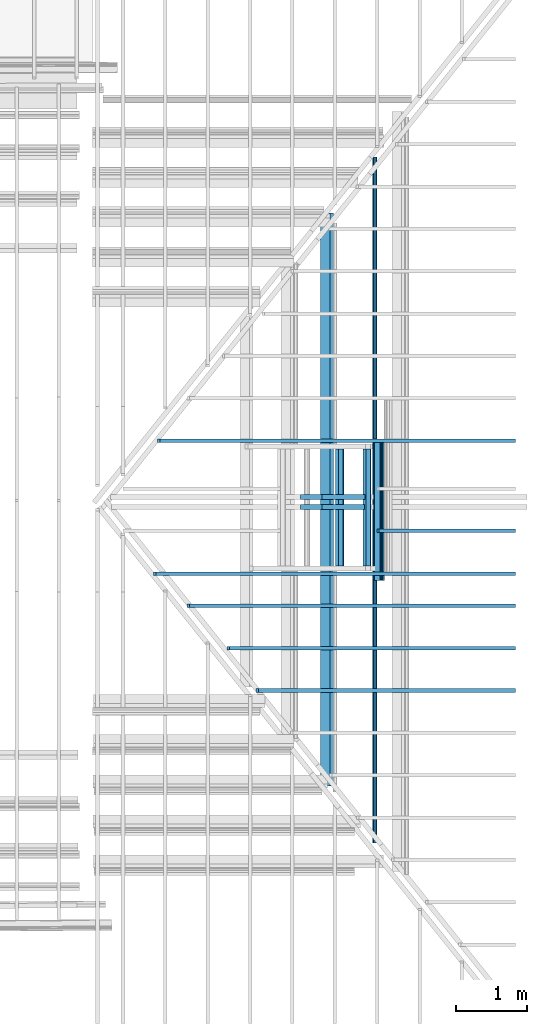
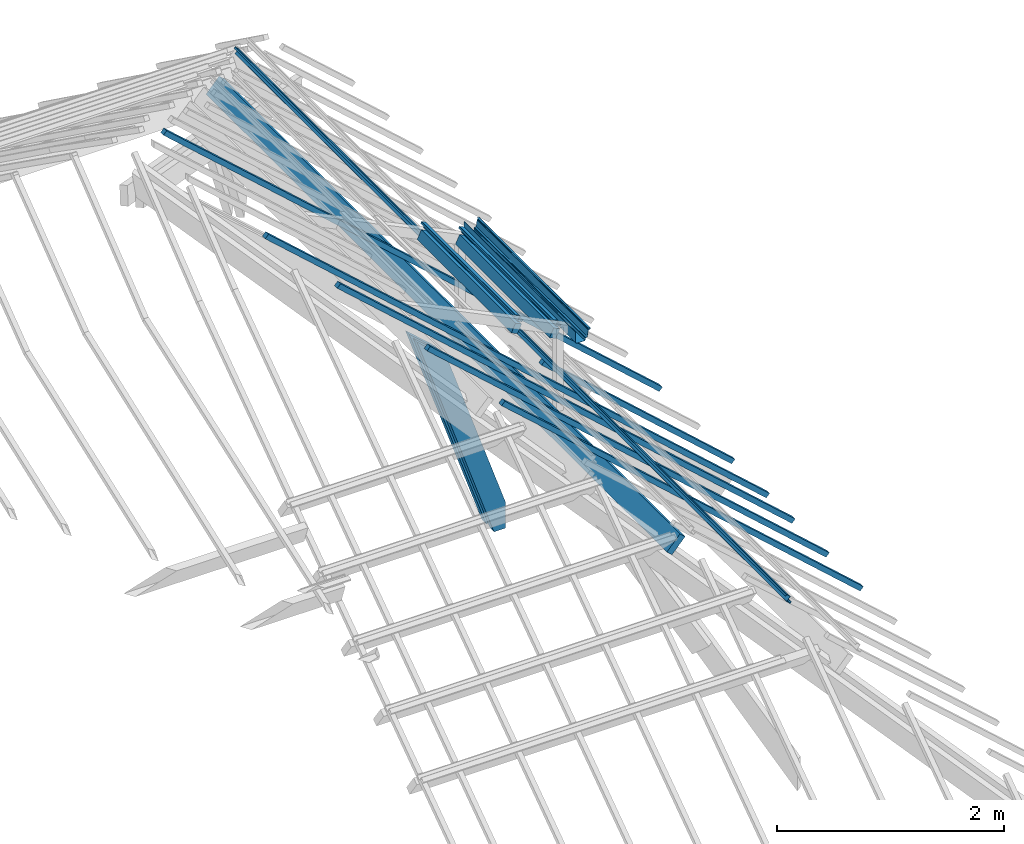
# One storey, part 13 of 18: 15 beams.
"""IFC2X3 building model written with IfcOpenShell, lengths in centimetres."""

from ifc_helpers import new_model, entity, si_unit, converted_unit, direction, frame, frame_2d, origin, origin_2d_with_axis, place, context, subcontext, project, spatial, polyline, circle_curve, parameter, trimmed, segment, composite_curve, rectangle, outline, extrude, clip, halfspace, bounded_halfspace, material, type_object, element, save


model = new_model("IFC2X3")

# Units and contexts
model_context = context("Model", 3, precision=0.001, world=frame((0.0, 0.0, 13090.0)), true_north=direction((6.123233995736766e-17, 1.0)))
body_context = subcontext(model_context, "Body", "Model", "MODEL_VIEW")
ifc_project = project(units=[si_unit("LENGTHUNIT", "METRE", prefix="CENTI"), si_unit("AREAUNIT", "SQUARE_METRE"), si_unit("VOLUMEUNIT", "CUBIC_METRE"), converted_unit("PLANEANGLEUNIT", "DEGREE", entity("IfcPlaneAngleMeasure", 0.017453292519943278), si_unit("PLANEANGLEUNIT", "RADIAN"), dimensions=[0, 0, 0, 0, 0, 0, 0])], contexts=[model_context])

# Site, building, storey
site_placement = place(None, origin())
site = spatial("IfcSite", under=ifc_project, at=site_placement, Name="Default", CompositionType="ELEMENT")
building_placement = place(site_placement, origin())
building = spatial("IfcBuilding", under=site, at=building_placement, Name="e 39 logements et 22 maisons relais", CompositionType="ELEMENT")
storey_placement = place(building_placement, frame((0.0, 0.0, 610.0)))
storey = spatial("IfcBuildingStorey", under=building, at=storey_placement, Name="R+2", CompositionType="ELEMENT", Elevation=609.9999999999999)

# Beams
ifc_material_1 = material(Name="Bois - Bois de construction de dimensions courantes")
beam_type_1 = type_object("IfcBeamType", Name="Poutre - Bois de construction de dimensions courantes:70 200", PredefinedType="BEAM")
beam_1_placement = place(storey_placement, frame((946.1986017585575, 514.0076677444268, -24.206163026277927), z_axis=(0.0, 0.0, 1.0), x_axis=(0.0, -1.0, 0.0)))
element("IfcBeam", 1, at=beam_1_placement, inside=storey, type_object=beam_type_1, material=ifc_material_1, Name="Poutre - Bois de construction de dimensions courantes:70 200", ObjectType="Poutre - Bois de construction de dimensions courantes:70 200", context=body_context, shape_type="SweptSolid", body=[
    extrude(rectangle(XDim=19.99999999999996, YDim=7.00000000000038, at=frame_2d((3.774758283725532e-15, 7.72715225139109e-14), x_axis=(0.0, 1.0))), frame((127.41129123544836, -6.691306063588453, -7.431448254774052), z_axis=(1.0, 0.0, 0.0), x_axis=(0.0, -0.7431448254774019, 0.6691306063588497)), (0.0, 0.0, 1.0), 811.3982205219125),
])
beam_2_placement = place(storey_placement, frame((1043.6068421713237, -15.897903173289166, -138.08965595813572), z_axis=(0.9473208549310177, 0.0, 0.32028611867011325), x_axis=(-0.32028611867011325, 0.0, 0.9473208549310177)))
element("IfcBeam", 2, at=beam_2_placement, inside=storey, type_object=beam_type_1, material=ifc_material_1, Name="Poutre - Bois de construction de dimensions courantes:70 200", ObjectType="Poutre - Bois de construction de dimensions courantes:70 200", context=body_context, shape_type="Clipping", body=[
    clip(clip(clip(extrude(rectangle(XDim=20.000000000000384, YDim=7.0000000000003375, at=frame_2d((0.0, 0.0), x_axis=(0.0, 1.0))), frame((-108.56270954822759, 0.0, -92.0), z_axis=(1.0, 0.0, 0.0), x_axis=(0.0, 1.0, 0.0)), (0.0, 0.0, 1.0), 248.0231512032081), halfspace(frame((98.77529436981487, -484.5295381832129, -79.03835809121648), z_axis=(0.4915005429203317, 0.0, 0.8708772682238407), x_axis=(0.0, 1.0, 0.0)), False)), bounded_halfspace(frame((-99.24238349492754, -484.5295381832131, -118.31909737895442), z_axis=(-0.947320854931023, 0.0, -0.3202861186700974), x_axis=(0.0, 1.0, 0.0)), False, frame((-108.56270954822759, 0.0, -92.0), z_axis=(1.0, 0.0, 0.0), x_axis=(0.0, 1.0, 0.0)), polyline([(-3.5000000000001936, 1.247939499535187), (3.5000000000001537, 1.24793949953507), (3.500000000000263, -10.0), (-3.5000000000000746, -10.0), (-3.5000000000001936, 1.247939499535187)]))), bounded_halfspace(frame((-108.56270954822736, -484.529538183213, -90.75206050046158), z_axis=(-0.36252345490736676, 0.0, 0.9319746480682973), x_axis=(0.0, 1.0, 0.0)), False, frame((-108.56270954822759, 0.0, -92.0), z_axis=(1.0, 0.0, 0.0), x_axis=(0.0, 1.0, 0.0)), polyline([(3.500000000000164, 1.2479394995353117), (-3.5000000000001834, 1.2479394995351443), (-3.5000000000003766, 10.0), (3.4999999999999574, 10.0), (3.500000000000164, 1.2479394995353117)]))),
])
beam_3_placement = place(storey_placement, frame((1043.0694290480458, -29.897903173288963, -136.50013137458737), z_axis=(0.9473208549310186, 0.0, 0.3202861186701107), x_axis=(-0.3202861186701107, 0.0, 0.9473208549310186)))
element("IfcBeam", 3, at=beam_3_placement, inside=storey, type_object=beam_type_1, material=ifc_material_1, Name="Poutre - Bois de construction de dimensions courantes:70 200", ObjectType="Poutre - Bois de construction de dimensions courantes:70 200", context=body_context, shape_type="Clipping", body=[
    clip(clip(clip(extrude(rectangle(XDim=19.999999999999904, YDim=7.000000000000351, at=frame_2d((0.0, 1.199040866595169e-13), x_axis=(0.0, 1.0))), frame((-110.24062529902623, 0.0, -92.0), z_axis=(1.0, 0.0, 0.0), x_axis=(0.0, 1.0, 0.0)), (0.0, 0.0, 1.0), 248.02315120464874), halfspace(frame((98.16536146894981, -484.52953818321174, -79.64109991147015), z_axis=(0.4915005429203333, 0.0, 0.8708772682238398), x_axis=(0.0, 1.0, 0.0)), False)), bounded_halfspace(frame((-100.85624202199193, -484.5295381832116, -118.50856154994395), z_axis=(-0.9473208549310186, 0.0, -0.3202861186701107), x_axis=(0.0, 1.0, 0.0)), False, frame((-110.24062529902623, 0.0, -92.0), z_axis=(1.0, 0.0, 0.0), x_axis=(0.0, 1.0, 0.0)), polyline([(-3.5000000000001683, 1.247939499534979), (3.500000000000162, 1.2479394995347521), (3.500000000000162, -10.0), (-3.500000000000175, -10.0), (-3.5000000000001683, 1.247939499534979)]))), bounded_halfspace(frame((-110.24062529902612, -484.5295381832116, -90.75206050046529), z_axis=(-0.3202861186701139, 0.0, 0.9473208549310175), x_axis=(0.0, 1.0, 0.0)), False, frame((-110.24062529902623, 0.0, -92.0), z_axis=(1.0, 0.0, 0.0), x_axis=(0.0, 1.0, 0.0)), polyline([(3.500000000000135, 1.2479394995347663), (-3.500000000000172, 1.2479394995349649), (-3.5000000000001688, 10.0), (3.5000000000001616, 10.0), (3.500000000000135, 1.2479394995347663)]))),
])
ifc_material_2 = material(Name="neuf")
beam_type_2 = type_object("IfcBeamType", Name="gouttiere ALU G400:gouttiere ALU G400", PredefinedType="BEAM")
beam_4_placement = place(storey_placement, frame((1005.6214779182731, -1147.1979031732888, 27.893667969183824), z_axis=(0.0, 0.0, 1.0), x_axis=(0.0, -1.0, 0.0)))
element("IfcBeam", 4, at=beam_4_placement, inside=storey, type_object=beam_type_2, material=ifc_material_2, Name="gouttiere ALU G400:gouttiere ALU G400", ObjectType="gouttiere ALU G400:gouttiere ALU G400", context=body_context, shape_type="SweptSolid", body=[
    extrude(outline(composite_curve([segment(polyline([(-6.028675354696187, -10.418144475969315), (4.91512518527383, -10.418144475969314)]), True, "CONTINUOUS"), segment(trimmed(circle_curve(frame_2d((4.482502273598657, -7.967211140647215), x_axis=(0.1738263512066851, -0.9847763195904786)), 2.4888223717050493), [parameter(0.0)], [parameter(79.98963375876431)], True, "PARAMETER"), True, "CONTINUOUS"), segment(polyline([(6.971324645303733, -7.967211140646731), (6.971324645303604, -1.467211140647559)]), True, "CONTINUOUS"), segment(trimmed(circle_curve(frame_2d((5.604531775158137, -1.4672111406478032), x_axis=(1.0, 0.0)), 1.3667928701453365), [parameter(0.0)], [parameter(80.76228289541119)], True, "PARAMETER"), True, "CONTINUOUS"), segment(polyline([(5.823944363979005, -0.11814447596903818), (4.738394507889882, -0.11814447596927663)]), True, "CONTINUOUS"), segment(trimmed(circle_curve(frame_2d((4.738394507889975, 0.5488704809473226), x_axis=(0.0, -1.0)), 0.6670149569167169), [parameter(270.0000000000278)], [parameter(0.0)], True, "PARAMETER"), False, "CONTINUOUS"), segment(trimmed(circle_curve(frame_2d((2.651166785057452, 0.5488704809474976), x_axis=(1.0, 0.0)), 1.4202127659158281), [parameter(0.0)], [parameter(75.702743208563)], True, "PARAMETER"), True, "CONTINUOUS"), segment(polyline([(3.001892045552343, 1.925095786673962), (-3.0280800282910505, 2.8687394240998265)]), True, "CONTINUOUS"), segment(trimmed(circle_curve(frame_2d((-2.8287143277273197, 3.6330360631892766), x_axis=(-0.25240289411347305, -0.967622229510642)), 0.7898708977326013), [parameter(284.6197487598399)], [parameter(0.0)], True, "PARAMETER"), False, "CONTINUOUS"), segment(polyline([(-3.618585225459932, 3.633036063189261), (-3.6185852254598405, 4.392159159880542)]), True, "CONTINUOUS"), segment(trimmed(circle_curve(frame_2d((-4.410064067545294, 4.3921591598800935), x_axis=(1.0, 0.0)), 0.7914788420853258), [parameter(0.0)], [parameter(89.99999999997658)], True, "PARAMETER"), True, "CONTINUOUS"), segment(polyline([(-4.410064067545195, 5.183638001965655), (-4.596964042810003, 5.183638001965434)]), True, "CONTINUOUS"), segment(trimmed(circle_curve(frame_2d((-4.596964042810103, 4.455817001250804), x_axis=(0.0, 1.0)), 0.727821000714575), [parameter(0.0)], [parameter(90.00000000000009)], True, "PARAMETER"), True, "CONTINUOUS"), segment(polyline([(-5.32478504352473, 4.455817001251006), (-5.509735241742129, 2.7163227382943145)]), True, "CONTINUOUS"), segment(polyline([(-5.509735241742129, 2.716322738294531), (-5.308633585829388, 2.7163227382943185)]), True, "CONTINUOUS"), segment(polyline([(-5.308633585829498, 2.716322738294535), (-5.126213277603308, 4.451936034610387)]), True, "CONTINUOUS"), segment(trimmed(circle_curve(frame_2d((-4.5962937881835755, 4.451936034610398), x_axis=(-1.0, 0.0)), 0.5299194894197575), [parameter(269.9999999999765)], [parameter(0.0)], True, "PARAMETER"), False, "CONTINUOUS"), segment(polyline([(-4.596293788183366, 4.981855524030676), (-4.409626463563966, 4.981855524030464)]), True, "CONTINUOUS"), segment(trimmed(circle_curve(frame_2d((-4.409626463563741, 4.391273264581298), x_axis=(0.0, 1.0)), 0.5905822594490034), [parameter(269.9999999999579)], [parameter(0.0)], True, "PARAMETER"), False, "CONTINUOUS"), segment(polyline([(-3.8190442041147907, 4.391273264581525), (-3.819044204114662, 3.6331166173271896)]), True, "CONTINUOUS"), segment(trimmed(circle_curve(frame_2d((-2.828956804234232, 3.6331166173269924), x_axis=(-1.0, 0.0)), 0.9900873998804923), [parameter(0.0)], [parameter(75.99999999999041)], True, "PARAMETER"), True, "CONTINUOUS"), segment(polyline([(-3.0684806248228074, 2.6724390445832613), (2.9612947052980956, 1.7290144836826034)]), True, "CONTINUOUS"), segment(trimmed(circle_curve(frame_2d((2.6511667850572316, 0.5488704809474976), x_axis=(0.2541588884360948, 0.9671624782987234)), 1.2202127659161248), [parameter(284.7237510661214)], [parameter(0.0)], True, "PARAMETER"), False, "CONTINUOUS"), segment(trimmed(circle_curve(frame_2d((4.738394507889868, 0.5488704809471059), x_axis=(-1.0, 0.0)), 0.8670149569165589), [parameter(0.0)], [parameter(90.0000000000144)], True, "PARAMETER"), True, "CONTINUOUS"), segment(polyline([(4.738394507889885, -0.318144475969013), (5.807143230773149, -0.31814447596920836)]), True, "CONTINUOUS"), segment(trimmed(circle_curve(frame_2d((5.604531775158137, -1.4672111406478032), x_axis=(0.17364817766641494, 0.9848077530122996)), 1.1667928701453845), [parameter(279.9999999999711)], [parameter(0.0)], True, "PARAMETER"), False, "CONTINUOUS"), segment(polyline([(6.771324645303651, -1.467211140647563), (6.771324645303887, -7.967211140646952)]), True, "CONTINUOUS"), segment(trimmed(circle_curve(frame_2d((4.482502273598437, -7.967211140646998), x_axis=(1.0, 0.0)), 2.2888223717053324), [parameter(280.43973077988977)], [parameter(0.0)], True, "PARAMETER"), False, "CONTINUOUS"), segment(polyline([(4.897239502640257, -10.218144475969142), (-6.02867535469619, -10.218144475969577)]), True, "CONTINUOUS"), segment(polyline([(-6.02867535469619, -10.21814447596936), (-6.02867535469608, -10.418144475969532)]), True, "CONTINUOUS")], self_intersect=False)), frame((-1209.5199859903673, 10.218144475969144, -37.028675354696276), z_axis=(1.0, 0.0, 0.0), x_axis=(0.0, 0.0, -1.0)), (0.0, 0.0, 1.0), 195.81260799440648),
])
beam_type_3 = type_object("IfcBeamType", Name="Poutre - Bois de construction de dimensions courantes:70 100", PredefinedType="BEAM")
beam_5_placement = place(storey_placement, frame((994.5727264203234, 147.7342752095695, 83.96665453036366), z_axis=(0.0, 0.0, 1.0), x_axis=(0.0, -1.0, 0.0)))
element("IfcBeam", 5, at=beam_5_placement, inside=storey, type_object=beam_type_3, material=ifc_material_1, Name="Poutre - Bois de construction de dimensions courantes:70 100", ObjectType="Poutre - Bois de construction de dimensions courantes:70 100", context=body_context, shape_type="SweptSolid", body=[
    extrude(rectangle(XDim=10.000000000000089, YDim=7.000000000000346, at=frame_2d((-9.50350909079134e-14, 7.460698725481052e-14), x_axis=(0.0, 1.0))), frame((95.56011376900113, -37.454465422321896, -78.52491973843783), z_axis=(1.0, 0.0, 0.0), x_axis=(0.0, -0.902585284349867, 0.43051109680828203)), (0.0, 0.0, 1.0), 165.75517344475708),
])
beam_6_placement = place(storey_placement, frame((1033.364061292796, 147.73427520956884, 65.18081592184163), z_axis=(0.0, 0.0, 1.0), x_axis=(0.0, -1.0, 0.0)))
element("IfcBeam", 6, at=beam_6_placement, inside=storey, type_object=beam_type_3, material=ifc_material_1, Name="Poutre - Bois de construction de dimensions courantes:70 100", ObjectType="Poutre - Bois de construction de dimensions courantes:70 100", context=body_context, shape_type="SweptSolid", body=[
    extrude(rectangle(XDim=10.000000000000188, YDim=7.000000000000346, at=frame_2d((2.3314683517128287e-14, -4.884981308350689e-14), x_axis=(0.0, 1.0))), frame((95.56011376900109, -37.45446542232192, -78.52491973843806), z_axis=(1.0, 0.0, 0.0), x_axis=(0.0, -0.9025852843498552, 0.43051109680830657)), (0.0, 0.0, 1.0), 165.75517344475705),
])
beam_type_4 = type_object("IfcBeamType", Name="panne z:panne z", PredefinedType="BEAM")
beam_7_placement = place(storey_placement, frame((1019.8183168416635, 514.0076677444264, -51.479095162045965), z_axis=(0.0, 0.0, 1.0), x_axis=(0.0, -1.0, 0.0)))
element("IfcBeam", 7, at=beam_7_placement, inside=storey, type_object=beam_type_4, material=ifc_material_2, Name="panne z:panne z", ObjectType="panne z:panne z", context=body_context, shape_type="SweptSolid", body=[
    extrude(outline(composite_curve([segment(polyline([(0.30000000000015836, -3.0), (4.600000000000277, -3.0)]), True, "CONTINUOUS"), segment(trimmed(circle_curve(frame_2d((4.600000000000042, -2.5999999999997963), x_axis=(0.0, -1.0)), 0.3999999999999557), [parameter(0.0)], [parameter(90.0000000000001)], True, "PARAMETER"), True, "CONTINUOUS"), segment(polyline([(5.0, -2.5999999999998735), (5.0, -1.0)]), True, "CONTINUOUS"), segment(polyline([(5.0, -1.0), (4.800000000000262, -1.0)]), True, "CONTINUOUS"), segment(polyline([(4.800000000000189, -1.0), (4.800000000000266, -2.5999999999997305)]), True, "CONTINUOUS"), segment(trimmed(circle_curve(frame_2d((4.5999999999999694, -2.5999999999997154), x_axis=(1.0, 0.0)), 0.20000000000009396), [parameter(270.0000000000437)], [parameter(0.0)], True, "PARAMETER"), False, "CONTINUOUS"), segment(polyline([(4.600000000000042, -2.799999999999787), (0.3000000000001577, -2.7999999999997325)]), True, "CONTINUOUS"), segment(trimmed(circle_curve(frame_2d((0.2999999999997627, -2.5999999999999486), x_axis=(0.0, -1.0)), 0.19999999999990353), [parameter(269.9999999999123)], [parameter(0.0)], True, "PARAMETER"), False, "CONTINUOUS"), segment(polyline([(0.10000000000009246, -2.599999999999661), (0.10000000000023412, 2.600000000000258)]), True, "CONTINUOUS"), segment(trimmed(circle_curve(frame_2d((-0.3000000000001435, 2.6000000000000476), x_axis=(1.0, 0.0)), 0.4000000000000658), [parameter(0.0)], [parameter(89.99999999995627)], True, "PARAMETER"), True, "CONTINUOUS"), segment(polyline([(-0.29999999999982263, 3.0), (-4.599999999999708, 3.0)]), True, "CONTINUOUS"), segment(trimmed(circle_curve(frame_2d((-4.59999999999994, 2.600000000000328), x_axis=(0.0, 1.0)), 0.3999999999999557), [parameter(0.0)], [parameter(90.0000000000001)], True, "PARAMETER"), True, "CONTINUOUS"), segment(polyline([(-5.0, 2.6000000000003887), (-5.0, 1.0)]), True, "CONTINUOUS"), segment(polyline([(-5.0, 1.0), (-4.799999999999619, 1.0)]), True, "CONTINUOUS"), segment(polyline([(-4.799999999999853, 1.0), (-4.799999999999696, 2.6000000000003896)]), True, "CONTINUOUS"), segment(trimmed(circle_curve(frame_2d((-4.599999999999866, 2.600000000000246), x_axis=(-1.0, 0.0)), 0.20000000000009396), [parameter(270.0000000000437)], [parameter(0.0)], True, "PARAMETER"), False, "CONTINUOUS"), segment(polyline([(-4.599999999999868, 2.8000000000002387), (-0.2999999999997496, 2.8000000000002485)]), True, "CONTINUOUS"), segment(trimmed(circle_curve(frame_2d((-0.2999999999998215, 2.600000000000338), x_axis=(0.0, 1.0)), 0.19999999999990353), [parameter(269.9999999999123)], [parameter(0.0)], True, "PARAMETER"), False, "CONTINUOUS"), segment(polyline([(-0.09999999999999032, 2.6000000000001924), (-0.099999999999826, -2.599999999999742)]), True, "CONTINUOUS"), segment(trimmed(circle_curve(frame_2d((0.30000000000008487, -2.5999999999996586), x_axis=(-1.0, 0.0)), 0.4000000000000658), [parameter(0.0)], [parameter(89.99999999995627)], True, "PARAMETER"), True, "CONTINUOUS")], self_intersect=False)), frame((48.320435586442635, -12.500988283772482, -13.883754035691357), z_axis=(1.0, 0.0, 0.0), x_axis=(0.0, -0.7431448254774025, 0.669130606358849)), (0.0, 0.0, 1.0), 971.0546877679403),
])
beam_8_placement = place(storey_placement, frame((1005.9038025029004, 514.0076677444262, 13.713514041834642), z_axis=(0.0, 0.0, 1.0), x_axis=(0.0, -1.0, 0.0)))
element("IfcBeam", 8, at=beam_8_placement, inside=storey, type_object=beam_type_4, material=ifc_material_2, Name="panne z:panne z", ObjectType="panne z:panne z", context=body_context, shape_type="SweptSolid", body=[
    extrude(outline(composite_curve([segment(polyline([(0.30000000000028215, -3.0), (4.600000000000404, -3.0)]), True, "CONTINUOUS"), segment(trimmed(circle_curve(frame_2d((4.6000000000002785, -2.599999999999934), x_axis=(0.0, -1.0)), 0.39999999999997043), [parameter(0.0)], [parameter(90.00000000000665)], True, "PARAMETER"), True, "CONTINUOUS"), segment(polyline([(5.0, -2.6000000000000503), (5.0, -1.0)]), True, "CONTINUOUS"), segment(polyline([(5.0, -1.0), (4.800000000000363, -1.0)]), True, "CONTINUOUS"), segment(polyline([(4.800000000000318, -1.0), (4.800000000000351, -2.599999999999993)]), True, "CONTINUOUS"), segment(trimmed(circle_curve(frame_2d((4.6000000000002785, -2.599999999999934), x_axis=(1.0, 0.0)), 0.20000000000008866), [parameter(269.99999999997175)], [parameter(0.0)], True, "PARAMETER"), False, "CONTINUOUS"), segment(polyline([(4.60000000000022, -2.800000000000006), (0.30000000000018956, -2.8000000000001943)]), True, "CONTINUOUS"), segment(trimmed(circle_curve(frame_2d((0.3000000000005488, -2.599999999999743), x_axis=(0.0, -1.0)), 0.20000000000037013), [parameter(270.00000000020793)], [parameter(0.0)], True, "PARAMETER"), False, "CONTINUOUS"), segment(polyline([(0.10000000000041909, -2.6000000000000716), (0.10000000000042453, 2.5999999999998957)]), True, "CONTINUOUS"), segment(trimmed(circle_curve(frame_2d((-0.29999999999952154, 2.6000000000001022), x_axis=(1.0, 0.0)), 0.39999999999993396), [parameter(0.0)], [parameter(90.00000000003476)], True, "PARAMETER"), True, "CONTINUOUS"), segment(polyline([(-0.299999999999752, 3.0), (-4.599999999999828, 3.0)]), True, "CONTINUOUS"), segment(trimmed(circle_curve(frame_2d((-4.599999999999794, 2.5999999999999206), x_axis=(0.0, 1.0)), 0.39999999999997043), [parameter(0.0)], [parameter(90.00000000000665)], True, "PARAMETER"), True, "CONTINUOUS"), segment(polyline([(-5.0, 2.599999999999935), (-5.0, 1.0)]), True, "CONTINUOUS"), segment(polyline([(-5.0, 1.0), (-4.799999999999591, 1.0)]), True, "CONTINUOUS"), segment(polyline([(-4.799999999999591, 1.0), (-4.799999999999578, 2.599999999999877)]), True, "CONTINUOUS"), segment(trimmed(circle_curve(frame_2d((-4.599999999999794, 2.5999999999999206), x_axis=(-1.0, 0.0)), 0.20000000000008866), [parameter(269.99999999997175)], [parameter(0.0)], True, "PARAMETER"), False, "CONTINUOUS"), segment(polyline([(-4.599999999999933, 2.799999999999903), (-0.29999999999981, 2.799999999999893)]), True, "CONTINUOUS"), segment(trimmed(circle_curve(frame_2d((-0.3000000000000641, 2.5999999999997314), x_axis=(0.0, 1.0)), 0.20000000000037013), [parameter(270.00000000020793)], [parameter(0.0)], True, "PARAMETER"), False, "CONTINUOUS"), segment(polyline([(-0.0999999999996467, 2.599999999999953), (-0.09999999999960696, -2.6000000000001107)]), True, "CONTINUOUS"), segment(trimmed(circle_curve(frame_2d((0.30000000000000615, -2.6000000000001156), x_axis=(-1.0, 0.0)), 0.39999999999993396), [parameter(0.0)], [parameter(90.00000000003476)], True, "PARAMETER"), True, "CONTINUOUS")], self_intersect=False)), frame((461.8055709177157, -7.895537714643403, -16.932035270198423), z_axis=(1.0, 0.0, 0.0), x_axis=(0.0, -0.9063077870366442, 0.422618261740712)), (0.0, 0.0, 1.0), 165.81104421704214),
])
beam_9_placement = place(storey_placement, frame((967.2782710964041, 514.0076677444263, 32.39084254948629), z_axis=(0.0, 0.0, 1.0), x_axis=(0.0, -1.0, 0.0)))
element("IfcBeam", 9, at=beam_9_placement, inside=storey, type_object=beam_type_4, material=ifc_material_2, Name="panne z:panne z", ObjectType="panne z:panne z", context=body_context, shape_type="SweptSolid", body=[
    extrude(outline(composite_curve([segment(polyline([(0.2999999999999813, -3.0), (4.600000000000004, -3.0)]), True, "CONTINUOUS"), segment(trimmed(circle_curve(frame_2d((4.600000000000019, -2.5999999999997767), x_axis=(0.0, -1.0)), 0.3999999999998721), [parameter(0.0)], [parameter(90.0000000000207)], True, "PARAMETER"), True, "CONTINUOUS"), segment(polyline([(5.0, -2.5999999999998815), (5.0, -1.0)]), True, "CONTINUOUS"), segment(polyline([(5.0, -1.0), (4.799999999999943, -1.0)]), True, "CONTINUOUS"), segment(polyline([(4.799999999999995, -1.0), (4.800000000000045, -2.599999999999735)]), True, "CONTINUOUS"), segment(trimmed(circle_curve(frame_2d((4.599999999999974, -2.599999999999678), x_axis=(1.0, 0.0)), 0.20000000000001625), [parameter(269.9999999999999)], [parameter(0.0)], True, "PARAMETER"), False, "CONTINUOUS"), segment(polyline([(4.600000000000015, -2.7999999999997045), (0.30000000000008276, -2.7999999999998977)]), True, "CONTINUOUS"), segment(trimmed(circle_curve(frame_2d((0.2999999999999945, -2.599999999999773), x_axis=(0.0, -1.0)), 0.20000000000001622), [parameter(269.9999999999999)], [parameter(0.0)], True, "PARAMETER"), False, "CONTINUOUS"), segment(polyline([(0.09999999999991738, -2.59999999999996), (0.0999999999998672, 2.6000000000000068)]), True, "CONTINUOUS"), segment(trimmed(circle_curve(frame_2d((-0.30000000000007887, 2.600000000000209), x_axis=(1.0, 0.0)), 0.3999999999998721), [parameter(0.0)], [parameter(90.0000000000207)], True, "PARAMETER"), True, "CONTINUOUS"), segment(polyline([(-0.30000000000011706, 3.0), (-4.600000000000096, 3.0)]), True, "CONTINUOUS"), segment(trimmed(circle_curve(frame_2d((-4.6000000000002, 2.6000000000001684), x_axis=(0.0, 1.0)), 0.3999999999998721), [parameter(0.0)], [parameter(90.0000000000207)], True, "PARAMETER"), True, "CONTINUOUS"), segment(polyline([(-5.0, 2.6000000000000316), (-5.0, 1.0)]), True, "CONTINUOUS"), segment(polyline([(-5.0, 1.0), (-4.800000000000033, 1.0)]), True, "CONTINUOUS"), segment(polyline([(-4.800000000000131, 1.0), (-4.800000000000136, 2.59999999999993)]), True, "CONTINUOUS"), segment(trimmed(circle_curve(frame_2d((-4.600000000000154, 2.600000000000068), x_axis=(-1.0, 0.0)), 0.20000000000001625), [parameter(269.9999999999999)], [parameter(0.0)], True, "PARAMETER"), False, "CONTINUOUS"), segment(polyline([(-4.600000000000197, 2.8000000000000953), (-0.3000000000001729, 2.800000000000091)]), True, "CONTINUOUS"), segment(trimmed(circle_curve(frame_2d((-0.3000000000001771, 2.600000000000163), x_axis=(0.0, 1.0)), 0.20000000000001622), [parameter(269.9999999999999)], [parameter(0.0)], True, "PARAMETER"), False, "CONTINUOUS"), segment(polyline([(-0.10000000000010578, 2.6000000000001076), (-0.09999999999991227, -2.59999999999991)]), True, "CONTINUOUS"), segment(trimmed(circle_curve(frame_2d((0.299999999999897, -2.599999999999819), x_axis=(-1.0, 0.0)), 0.3999999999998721), [parameter(0.0)], [parameter(90.0000000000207)], True, "PARAMETER"), True, "CONTINUOUS")], self_intersect=False)), frame((461.8055709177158, -7.895537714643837, -16.9320352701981), z_axis=(1.0, 0.0, 0.0), x_axis=(0.0, -0.9063077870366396, 0.42261826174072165)), (0.0, 0.0, 1.0), 165.81104421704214),
])
beam_type_5 = type_object("IfcBeamType", Name="Poutre - Bois de construction de dimensions courantes:50 50", PredefinedType="BEAM")
beam_10_placement = place(storey_placement, frame((1106.4398392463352, -124.40894739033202, -51.09700593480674), z_axis=(0.6675793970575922, 0.0, 0.7445386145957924), x_axis=(-0.7445386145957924, 0.0, 0.6675793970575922)))
element("IfcBeam", 10, at=beam_10_placement, inside=storey, type_object=beam_type_5, material=ifc_material_1, Name="Poutre - Bois de construction de dimensions courantes:50 50", ObjectType="Poutre - Bois de construction de dimensions courantes:50 50", context=body_context, shape_type="SweptSolid", body=[
    extrude(rectangle(XDim=5.000000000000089, YDim=5.000000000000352, at=frame_2d((1.3300471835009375e-13, 1.354472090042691e-14), x_axis=(1.0, 0.0))), frame((-208.06330346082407, 0.0, -84.50000000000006), z_axis=(1.0, 0.0, 0.0), x_axis=(0.0, 0.0, -1.0)), (0.0, 0.0, 1.0), 684.0170209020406),
])
beam_11_placement = place(storey_placement, frame((1106.4398392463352, -169.59790317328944, -51.09700593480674), z_axis=(0.6675793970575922, 0.0, 0.7445386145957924), x_axis=(-0.7445386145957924, 0.0, 0.6675793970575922)))
element("IfcBeam", 11, at=beam_11_placement, inside=storey, type_object=beam_type_5, material=ifc_material_1, Name="Poutre - Bois de construction de dimensions courantes:50 50", ObjectType="Poutre - Bois de construction de dimensions courantes:50 50", context=body_context, shape_type="SweptSolid", body=[
    extrude(rectangle(XDim=4.999999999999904, YDim=5.000000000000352, at=frame_2d((-2.020605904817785e-14, -1.354472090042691e-14), x_axis=(1.0, 0.0))), frame((-208.06330346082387, 0.0, -84.50000000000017), z_axis=(1.0, 0.0, 0.0), x_axis=(0.0, 0.0, -1.0)), (0.0, 0.0, 1.0), 620.7305020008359),
])
beam_12_placement = place(storey_placement, frame((1106.4398392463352, -229.59790317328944, -51.09700593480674), z_axis=(0.6675793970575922, 0.0, 0.7445386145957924), x_axis=(-0.7445386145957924, 0.0, 0.6675793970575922)))
element("IfcBeam", 12, at=beam_12_placement, inside=storey, type_object=beam_type_5, material=ifc_material_1, Name="Poutre - Bois de construction de dimensions courantes:50 50", ObjectType="Poutre - Bois de construction de dimensions courantes:50 50", context=body_context, shape_type="SweptSolid", body=[
    extrude(rectangle(XDim=5.000000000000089, YDim=5.000000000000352, at=frame_2d((1.3300471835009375e-13, 1.354472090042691e-14), x_axis=(1.0, 0.0))), frame((-208.06330346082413, 0.0, -84.50000000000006), z_axis=(1.0, 0.0, 0.0), x_axis=(0.0, 0.0, -1.0)), (0.0, 0.0, 1.0), 544.6879187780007),
])
beam_13_placement = place(storey_placement, frame((1106.439839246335, -289.5979031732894, -51.09700593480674), z_axis=(0.6675793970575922, 0.0, 0.7445386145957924), x_axis=(-0.7445386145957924, 0.0, 0.6675793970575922)))
element("IfcBeam", 13, at=beam_13_placement, inside=storey, type_object=beam_type_5, material=ifc_material_1, Name="Poutre - Bois de construction de dimensions courantes:50 50", ObjectType="Poutre - Bois de construction de dimensions courantes:50 50", context=body_context, shape_type="SweptSolid", body=[
    extrude(rectangle(XDim=5.000000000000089, YDim=5.000000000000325, at=origin_2d_with_axis()), frame((-208.06330346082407, 0.0, -84.50000000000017), z_axis=(1.0, 0.0, 0.0), x_axis=(0.0, 0.0, -1.0)), (0.0, 0.0, 1.0), 489.42634873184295),
])
beam_14_placement = place(storey_placement, frame((1162.8026094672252, -63.708947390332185, -101.76753435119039), z_axis=(0.6684032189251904, 0.0, 0.7437991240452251), x_axis=(-0.7437991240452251, 0.0, 0.6684032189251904)))
element("IfcBeam", 14, at=beam_14_placement, inside=storey, type_object=beam_type_5, material=ifc_material_1, Name="Poutre - Bois de construction de dimensions courantes:50 50", ObjectType="Poutre - Bois de construction de dimensions courantes:50 50", context=body_context, shape_type="SweptSolid", body=[
    extrude(rectangle(XDim=5.0000000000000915, YDim=5.000000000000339, at=frame_2d((-1.9761969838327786e-14, -6.8833827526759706e-15), x_axis=(1.0, 0.0))), frame((-132.34226754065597, 0.0, -84.50000000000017), z_axis=(1.0, 0.0, 0.0), x_axis=(0.0, 0.0, -1.0)), (0.0, 0.0, 1.0), 259.6661692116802),
])
beam_15_placement = place(storey_placement, frame((1106.4398392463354, 64.09105260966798, -51.09700593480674), z_axis=(0.6675793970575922, 0.0, 0.7445386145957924), x_axis=(-0.7445386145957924, 0.0, 0.6675793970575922)))
element("IfcBeam", 15, at=beam_15_placement, inside=storey, type_object=beam_type_5, material=ifc_material_1, Name="Poutre - Bois de construction de dimensions courantes:50 50", ObjectType="Poutre - Bois de construction de dimensions courantes:50 50", context=body_context, shape_type="SweptSolid", body=[
    extrude(rectangle(XDim=5.000000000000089, YDim=5.000000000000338, at=frame_2d((1.3300471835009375e-13, 6.661338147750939e-15), x_axis=(1.0, 0.0))), frame((-208.06330346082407, 0.0, -84.50000000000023), z_axis=(1.0, 0.0, 0.0), x_axis=(0.0, 0.0, -1.0)), (0.0, 0.0, 1.0), 676.8239100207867),
])

save(model, "model.ifc")
